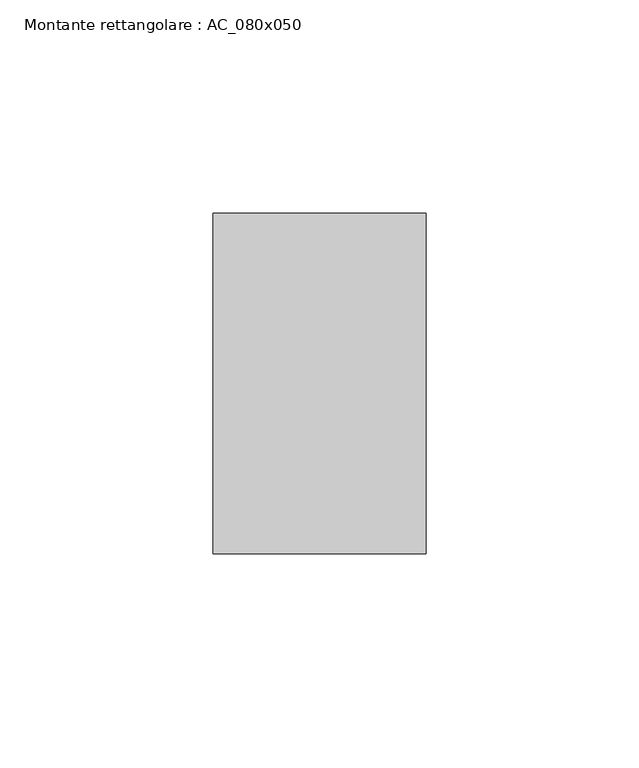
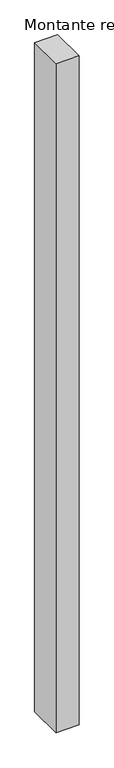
"""IFC4 building model written with IfcOpenShell, lengths in millimetres: member geometry, Montante rettangolare : AC_080x050."""

from ifc_helpers import new_model, si_unit, frame, origin, place, context, project, spatial, polyline, outline, extrude, source, transform, mapped, element, save


def montante_rettangolare_ac_080x050_a195ecd1(model_context):
    return source(origin(), model_context, "Body", "SweptSolid", [
        extrude(outline(polyline([(0.0, 40.0), (0.0, -40.0), (-50.0, -40.0), (-50.0, 40.0), (0.0, 40.0)])), frame((0.0, 0.0, -1540.0), z_axis=(0.0, 0.0, 1.0), x_axis=(1.0, 0.0, 0.0)), (0.0, 0.0, 1.0), 1540.0),
    ])


if __name__ == "__main__":
    model = new_model("IFC4")
    model_context = context("Model", 3, world=origin())
    ifc_project = project(units=[si_unit("LENGTHUNIT", "METRE", prefix="MILLI")], contexts=[model_context])
    site = spatial("IfcSite", under=ifc_project)
    building = spatial("IfcBuilding", under=site)
    placement = place(None, origin())
    montante_rettangolare_ac_080x050_shape = montante_rettangolare_ac_080x050_a195ecd1(model_context)
    element("IfcMember", 1, ObjectType="Montante rettangolare : AC_080x050", at=placement, inside=building, context=model_context, shape_type="MappedRepresentation", body=[
        mapped(montante_rettangolare_ac_080x050_shape, transform((0.0, 0.0, 0.0), x_axis=(1.0, 0.0, 0.0), y_axis=(0.0, 1.0, 0.0), z_axis=(0.0, 0.0, 1.0))),
    ])
    save(model, "model.ifc")
